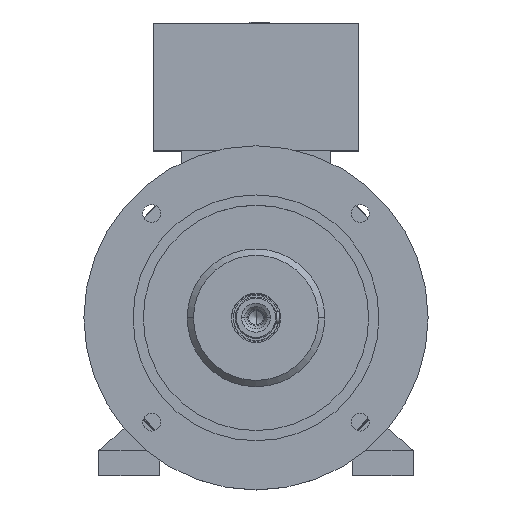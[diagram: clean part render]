
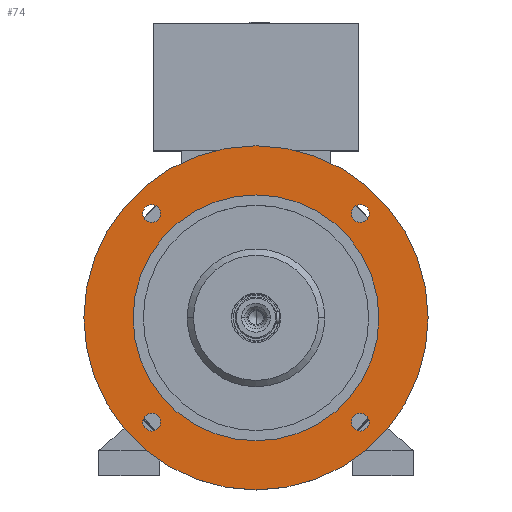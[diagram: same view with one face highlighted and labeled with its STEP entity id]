
A CAD part, top view. The second image highlights one B-rep face of the part: STEP entity #74.
In plain terms, the highlighted planar face has unit normal (0, 0, 1).
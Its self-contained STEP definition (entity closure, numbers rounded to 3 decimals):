
#23 = DIRECTION ( 'NONE',  ( 0., 0., -1. ) ) ;
#74 = ADVANCED_FACE ( 'NONE', ( #4953, #7522, #8692, #14159, #3782, #3202 ), #10356, .T. ) ;
#102 = ORIENTED_EDGE ( 'NONE', *, *, #15592, .T. ) ;
#283 = CIRCLE ( 'NONE', #20391, 9. ) ;
#480 = CARTESIAN_POINT ( 'NONE',  ( 0., 0., 235. ) ) ;
#496 = CARTESIAN_POINT ( 'NONE',  ( 175., 0., 235. ) ) ;
#835 = VERTEX_POINT ( 'NONE', #3102 ) ;
#1213 = AXIS2_PLACEMENT_3D ( 'NONE', #23442, #10602, #15979 ) ;
#1274 = CARTESIAN_POINT ( 'NONE',  ( 0., 0., 235. ) ) ;
#1325 = DIRECTION ( 'NONE',  ( 0., 0., -1. ) ) ;
#1377 = AXIS2_PLACEMENT_3D ( 'NONE', #13889, #8429, #17872 ) ;
#1439 = DIRECTION ( 'NONE',  ( -1., 0., 0. ) ) ;
#1500 = VERTEX_POINT ( 'NONE', #19290 ) ;
#1612 = DIRECTION ( 'NONE',  ( 1., 0., 0. ) ) ;
#1812 = DIRECTION ( 'NONE',  ( 1., 0., 0. ) ) ;
#1964 = DIRECTION ( 'NONE',  ( 1., 0., 0. ) ) ;
#3018 = CARTESIAN_POINT ( 'NONE',  ( 115.066, -106.066, 235. ) ) ;
#3102 = CARTESIAN_POINT ( 'NONE',  ( -115.066, 106.066, 235. ) ) ;
#3202 = FACE_BOUND ( 'NONE', #13979, .T. ) ;
#3234 = ORIENTED_EDGE ( 'NONE', *, *, #7739, .T. ) ;
#3243 = AXIS2_PLACEMENT_3D ( 'NONE', #5675, #16608, #1964 ) ;
#3291 = CIRCLE ( 'NONE', #7667, 9. ) ;
#3499 = VERTEX_POINT ( 'NONE', #18024 ) ;
#3531 = CARTESIAN_POINT ( 'NONE',  ( -106.066, 106.066, 235. ) ) ;
#3692 = AXIS2_PLACEMENT_3D ( 'NONE', #18393, #23, #5599 ) ;
#3782 = FACE_BOUND ( 'NONE', #11505, .T. ) ;
#4433 = ORIENTED_EDGE ( 'NONE', *, *, #22606, .T. ) ;
#4612 = DIRECTION ( 'NONE',  ( 1., 0., 0. ) ) ;
#4678 = VERTEX_POINT ( 'NONE', #12996 ) ;
#4725 = EDGE_LOOP ( 'NONE', ( #22395, #20797 ) ) ;
#4870 = DIRECTION ( 'NONE',  ( 0., 0., -1. ) ) ;
#4953 = FACE_OUTER_BOUND ( 'NONE', #4725, .T. ) ;
#5030 = VERTEX_POINT ( 'NONE', #16894 ) ;
#5237 = ORIENTED_EDGE ( 'NONE', *, *, #16188, .T. ) ;
#5534 = VERTEX_POINT ( 'NONE', #19396 ) ;
#5599 = DIRECTION ( 'NONE',  ( -1., 0., 0. ) ) ;
#5675 = CARTESIAN_POINT ( 'NONE',  ( -106.066, -106.066, 235. ) ) ;
#5676 = DIRECTION ( 'NONE',  ( 1., 0., 0. ) ) ;
#6343 = ORIENTED_EDGE ( 'NONE', *, *, #12732, .T. ) ;
#6990 = CIRCLE ( 'NONE', #15238, 125. ) ;
#7008 = CIRCLE ( 'NONE', #1377, 9. ) ;
#7030 = CARTESIAN_POINT ( 'NONE',  ( 0., 175., 235. ) ) ;
#7287 = EDGE_LOOP ( 'NONE', ( #5237, #102 ) ) ;
#7330 = AXIS2_PLACEMENT_3D ( 'NONE', #20462, #18715, #5676 ) ;
#7336 = CIRCLE ( 'NONE', #1213, 9. ) ;
#7522 = FACE_BOUND ( 'NONE', #7287, .T. ) ;
#7667 = AXIS2_PLACEMENT_3D ( 'NONE', #8152, #13938, #11741 ) ;
#7739 = EDGE_CURVE ( 'NONE', #15665, #1500, #20529, .T. ) ;
#7852 = VERTEX_POINT ( 'NONE', #8839 ) ;
#8152 = CARTESIAN_POINT ( 'NONE',  ( 106.066, 106.066, 235. ) ) ;
#8362 = AXIS2_PLACEMENT_3D ( 'NONE', #7030, #20185, #1612 ) ;
#8429 = DIRECTION ( 'NONE',  ( 0., 0., -1. ) ) ;
#8692 = FACE_BOUND ( 'NONE', #14714, .T. ) ;
#8839 = CARTESIAN_POINT ( 'NONE',  ( -97.066, -106.066, 235. ) ) ;
#8945 = EDGE_LOOP ( 'NONE', ( #12711, #11408 ) ) ;
#9557 = VERTEX_POINT ( 'NONE', #23001 ) ;
#10356 = PLANE ( 'NONE',  #8362 ) ;
#10602 = DIRECTION ( 'NONE',  ( 0., 0., -1. ) ) ;
#11408 = ORIENTED_EDGE ( 'NONE', *, *, #17278, .T. ) ;
#11505 = EDGE_LOOP ( 'NONE', ( #4433, #14446 ) ) ;
#11741 = DIRECTION ( 'NONE',  ( 1., 0., 0. ) ) ;
#11918 = CIRCLE ( 'NONE', #14488, 9. ) ;
#12241 = EDGE_CURVE ( 'NONE', #1500, #15665, #7336, .T. ) ;
#12488 = CIRCLE ( 'NONE', #3243, 9. ) ;
#12711 = ORIENTED_EDGE ( 'NONE', *, *, #15253, .T. ) ;
#12732 = EDGE_CURVE ( 'NONE', #15289, #7852, #7008, .T. ) ;
#12996 = CARTESIAN_POINT ( 'NONE',  ( 97.066, 106.066, 235. ) ) ;
#13177 = VERTEX_POINT ( 'NONE', #15601 ) ;
#13889 = CARTESIAN_POINT ( 'NONE',  ( -106.066, -106.066, 235. ) ) ;
#13938 = DIRECTION ( 'NONE',  ( 0., 0., -1. ) ) ;
#13939 = CIRCLE ( 'NONE', #18292, 125. ) ;
#13972 = CARTESIAN_POINT ( 'NONE',  ( 0., 0., 235. ) ) ;
#13979 = EDGE_LOOP ( 'NONE', ( #22776, #6343 ) ) ;
#14122 = CARTESIAN_POINT ( 'NONE',  ( 106.066, -106.066, 235. ) ) ;
#14159 = FACE_BOUND ( 'NONE', #8945, .T. ) ;
#14446 = ORIENTED_EDGE ( 'NONE', *, *, #21299, .T. ) ;
#14488 = AXIS2_PLACEMENT_3D ( 'NONE', #22005, #1325, #18168 ) ;
#14714 = EDGE_LOOP ( 'NONE', ( #3234, #21639 ) ) ;
#15238 = AXIS2_PLACEMENT_3D ( 'NONE', #1274, #4870, #1439 ) ;
#15253 = EDGE_CURVE ( 'NONE', #3499, #4678, #3291, .T. ) ;
#15289 = VERTEX_POINT ( 'NONE', #16171 ) ;
#15462 = DIRECTION ( 'NONE',  ( -1., 0., 0. ) ) ;
#15592 = EDGE_CURVE ( 'NONE', #5030, #13177, #13939, .T. ) ;
#15601 = CARTESIAN_POINT ( 'NONE',  ( -125., 0., 235. ) ) ;
#15665 = VERTEX_POINT ( 'NONE', #3018 ) ;
#15967 = DIRECTION ( 'NONE',  ( 0., 0., -1. ) ) ;
#15979 = DIRECTION ( 'NONE',  ( 1., 0., 0. ) ) ;
#16171 = CARTESIAN_POINT ( 'NONE',  ( -115.066, -106.066, 235. ) ) ;
#16188 = EDGE_CURVE ( 'NONE', #13177, #5030, #6990, .T. ) ;
#16608 = DIRECTION ( 'NONE',  ( 0., 0., -1. ) ) ;
#16894 = CARTESIAN_POINT ( 'NONE',  ( 125., 0., 235. ) ) ;
#17075 = CIRCLE ( 'NONE', #3692, 175. ) ;
#17278 = EDGE_CURVE ( 'NONE', #4678, #3499, #18978, .T. ) ;
#17662 = AXIS2_PLACEMENT_3D ( 'NONE', #480, #20993, #15462 ) ;
#17872 = DIRECTION ( 'NONE',  ( 1., 0., 0. ) ) ;
#18024 = CARTESIAN_POINT ( 'NONE',  ( 115.066, 106.066, 235. ) ) ;
#18168 = DIRECTION ( 'NONE',  ( 1., 0., 0. ) ) ;
#18262 = CIRCLE ( 'NONE', #17662, 175. ) ;
#18292 = AXIS2_PLACEMENT_3D ( 'NONE', #13972, #15967, #21498 ) ;
#18393 = CARTESIAN_POINT ( 'NONE',  ( 0., 0., 235. ) ) ;
#18715 = DIRECTION ( 'NONE',  ( 0., 0., -1. ) ) ;
#18978 = CIRCLE ( 'NONE', #7330, 9. ) ;
#19290 = CARTESIAN_POINT ( 'NONE',  ( 97.066, -106.066, 235. ) ) ;
#19396 = CARTESIAN_POINT ( 'NONE',  ( -175., 0., 235. ) ) ;
#19992 = EDGE_CURVE ( 'NONE', #5534, #23822, #18262, .T. ) ;
#20185 = DIRECTION ( 'NONE',  ( 0., 0., 1. ) ) ;
#20391 = AXIS2_PLACEMENT_3D ( 'NONE', #3531, #23927, #1812 ) ;
#20462 = CARTESIAN_POINT ( 'NONE',  ( 106.066, 106.066, 235. ) ) ;
#20529 = CIRCLE ( 'NONE', #21731, 9. ) ;
#20797 = ORIENTED_EDGE ( 'NONE', *, *, #21456, .F. ) ;
#20993 = DIRECTION ( 'NONE',  ( 0., 0., -1. ) ) ;
#21281 = DIRECTION ( 'NONE',  ( 0., 0., -1. ) ) ;
#21299 = EDGE_CURVE ( 'NONE', #835, #9557, #11918, .T. ) ;
#21456 = EDGE_CURVE ( 'NONE', #23822, #5534, #17075, .T. ) ;
#21467 = EDGE_CURVE ( 'NONE', #7852, #15289, #12488, .T. ) ;
#21498 = DIRECTION ( 'NONE',  ( -1., 0., 0. ) ) ;
#21639 = ORIENTED_EDGE ( 'NONE', *, *, #12241, .T. ) ;
#21731 = AXIS2_PLACEMENT_3D ( 'NONE', #14122, #21281, #4612 ) ;
#22005 = CARTESIAN_POINT ( 'NONE',  ( -106.066, 106.066, 235. ) ) ;
#22395 = ORIENTED_EDGE ( 'NONE', *, *, #19992, .F. ) ;
#22606 = EDGE_CURVE ( 'NONE', #9557, #835, #283, .T. ) ;
#22776 = ORIENTED_EDGE ( 'NONE', *, *, #21467, .T. ) ;
#23001 = CARTESIAN_POINT ( 'NONE',  ( -97.066, 106.066, 235. ) ) ;
#23442 = CARTESIAN_POINT ( 'NONE',  ( 106.066, -106.066, 235. ) ) ;
#23822 = VERTEX_POINT ( 'NONE', #496 ) ;
#23927 = DIRECTION ( 'NONE',  ( 0., 0., -1. ) ) ;
